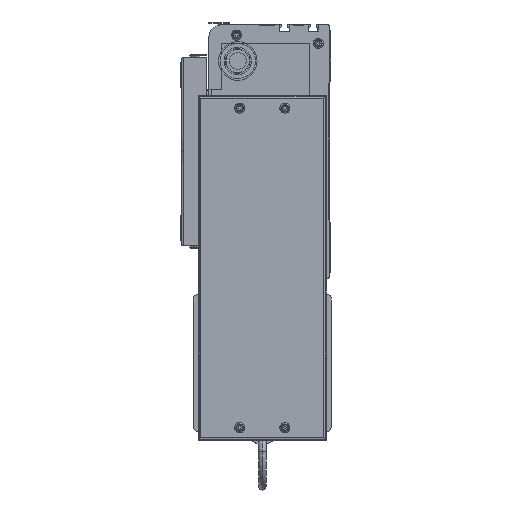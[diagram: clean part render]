
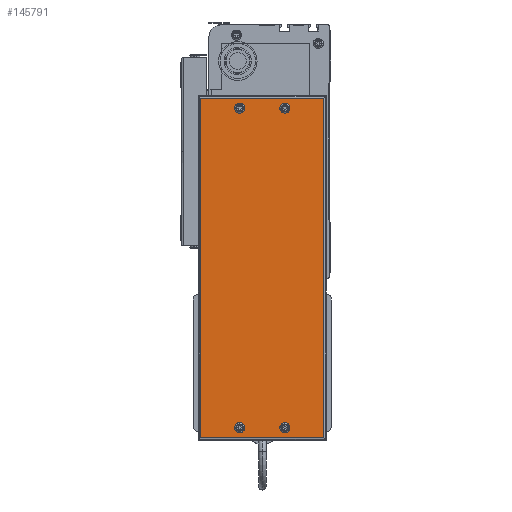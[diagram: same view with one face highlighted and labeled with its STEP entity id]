
A CAD part, left-side view. The second image highlights one B-rep face of the part: STEP entity #145791.
In plain terms, the highlighted planar face has unit normal (-1, 0, 0) as drawn and (1, 0, 0) by its records, which use the part's own axes.
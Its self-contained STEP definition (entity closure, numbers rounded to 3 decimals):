
#15871 = CARTESIAN_POINT ( 'NONE',  ( 50., 10., -71.5 ) ) ;
#15928 = CARTESIAN_POINT ( 'NONE',  ( 50., 10., -30.5 ) ) ;
#15962 = CARTESIAN_POINT ( 'NONE',  ( 50., 10., -66.5 ) ) ;
#16117 = CARTESIAN_POINT ( 'NONE',  ( 50., 264., -35.5 ) ) ;
#16491 = CIRCLE ( 'NONE', #16628, 2.5 ) ;
#16501 = CARTESIAN_POINT ( 'NONE',  ( 50., 10., -69. ) ) ;
#16626 = DIRECTION ( 'NONE',  ( 0., 0., -1. ) ) ;
#16627 = DIRECTION ( 'NONE',  ( 1., 0., 0. ) ) ;
#16628 = AXIS2_PLACEMENT_3D ( 'NONE', #16501, #16627, #16626 ) ;
#16989 = CARTESIAN_POINT ( 'NONE',  ( 50., 272., -2. ) ) ;
#17067 = CARTESIAN_POINT ( 'NONE',  ( 50., 264., -71.5 ) ) ;
#17468 = LINE ( 'NONE', #17510, #17586 ) ;
#17508 = DIRECTION ( 'NONE',  ( 0., 0., -1. ) ) ;
#17510 = CARTESIAN_POINT ( 'NONE',  ( 50., 2., 0. ) ) ;
#17586 = VECTOR ( 'NONE', #17508, 1000. ) ;
#17963 = CIRCLE ( 'NONE', #18073, 2.5 ) ;
#17970 = DIRECTION ( 'NONE',  ( 1., 0., 0. ) ) ;
#17990 = CARTESIAN_POINT ( 'NONE',  ( 50., 264., -33. ) ) ;
#18029 = DIRECTION ( 'NONE',  ( 0., 0., -1. ) ) ;
#18073 = AXIS2_PLACEMENT_3D ( 'NONE', #17990, #17970, #18029 ) ;
#18486 = CARTESIAN_POINT ( 'NONE',  ( 50., 264., -66.5 ) ) ;
#19098 = CARTESIAN_POINT ( 'NONE',  ( 50., 274., -2. ) ) ;
#19099 = LINE ( 'NONE', #19098, #19274 ) ;
#19273 = DIRECTION ( 'NONE',  ( 0., -1., 0. ) ) ;
#19274 = VECTOR ( 'NONE', #19273, 1000. ) ;
#19341 = DIRECTION ( 'NONE',  ( 0., 1., 0. ) ) ;
#19342 = VECTOR ( 'NONE', #19341, 1000. ) ;
#19343 = CARTESIAN_POINT ( 'NONE',  ( 50., 274., -100. ) ) ;
#19344 = LINE ( 'NONE', #19343, #19342 ) ;
#19348 = CARTESIAN_POINT ( 'NONE',  ( 50., 2., -2. ) ) ;
#19546 = CARTESIAN_POINT ( 'NONE',  ( 50., 264., -30.5 ) ) ;
#19793 = CARTESIAN_POINT ( 'NONE',  ( 50., 272., -100. ) ) ;
#20213 = AXIS2_PLACEMENT_3D ( 'NONE', #20249, #20248, #20247 ) ;
#20237 = FACE_BOUND ( 'NONE', #145485, .T. ) ;
#20238 = PLANE ( 'NONE',  #20329 ) ;
#20240 = FACE_BOUND ( 'NONE', #145487, .T. ) ;
#20244 = FACE_OUTER_BOUND ( 'NONE', #145594, .T. ) ;
#20247 = DIRECTION ( 'NONE',  ( 0., 0., -1. ) ) ;
#20248 = DIRECTION ( 'NONE',  ( 1., 0., 0. ) ) ;
#20249 = CARTESIAN_POINT ( 'NONE',  ( 50., 264., -33. ) ) ;
#20250 = FACE_BOUND ( 'NONE', #145533, .T. ) ;
#20252 = CIRCLE ( 'NONE', #20213, 2.5 ) ;
#20319 = DIRECTION ( 'NONE',  ( 0., 0., 1. ) ) ;
#20320 = FACE_BOUND ( 'NONE', #145534, .T. ) ;
#20327 = DIRECTION ( 'NONE',  ( -1., 0., 0. ) ) ;
#20328 = CARTESIAN_POINT ( 'NONE',  ( 50., 274., 0. ) ) ;
#20329 = AXIS2_PLACEMENT_3D ( 'NONE', #20328, #20327, #20319 ) ;
#20866 = CARTESIAN_POINT ( 'NONE',  ( 50., 2., -100. ) ) ;
#21671 = DIRECTION ( 'NONE',  ( 0., 0., -1. ) ) ;
#21672 = DIRECTION ( 'NONE',  ( 1., 0., 0. ) ) ;
#21673 = CARTESIAN_POINT ( 'NONE',  ( 50., 10., -33. ) ) ;
#21674 = AXIS2_PLACEMENT_3D ( 'NONE', #21673, #21672, #21671 ) ;
#21676 = CIRCLE ( 'NONE', #21674, 2.5 ) ;
#26130 = DIRECTION ( 'NONE',  ( 0., 0., -1. ) ) ;
#26132 = DIRECTION ( 'NONE',  ( 1., 0., 0. ) ) ;
#26147 = CIRCLE ( 'NONE', #26159, 2.5 ) ;
#26159 = AXIS2_PLACEMENT_3D ( 'NONE', #26176, #26132, #26130 ) ;
#26176 = CARTESIAN_POINT ( 'NONE',  ( 50., 10., -69. ) ) ;
#26311 = AXIS2_PLACEMENT_3D ( 'NONE', #26426, #26425, #26424 ) ;
#26313 = CIRCLE ( 'NONE', #26311, 2.5 ) ;
#26408 = DIRECTION ( 'NONE',  ( 0., 0., 1. ) ) ;
#26409 = VECTOR ( 'NONE', #26408, 1000. ) ;
#26411 = CARTESIAN_POINT ( 'NONE',  ( 50., 272., 0. ) ) ;
#26420 = LINE ( 'NONE', #26411, #26409 ) ;
#26424 = DIRECTION ( 'NONE',  ( 0., 0., -1. ) ) ;
#26425 = DIRECTION ( 'NONE',  ( 1., 0., 0. ) ) ;
#26426 = CARTESIAN_POINT ( 'NONE',  ( 50., 264., -69. ) ) ;
#80836 = DIRECTION ( 'NONE',  ( 0., 0., -1. ) ) ;
#80838 = DIRECTION ( 'NONE',  ( 1., 0., 0. ) ) ;
#80840 = CARTESIAN_POINT ( 'NONE',  ( 50., 10., -33. ) ) ;
#80841 = AXIS2_PLACEMENT_3D ( 'NONE', #80840, #80838, #80836 ) ;
#80850 = CIRCLE ( 'NONE', #80841, 2.5 ) ;
#80906 = CIRCLE ( 'NONE', #81065, 2.5 ) ;
#81035 = DIRECTION ( 'NONE',  ( 0., 0., -1. ) ) ;
#81036 = DIRECTION ( 'NONE',  ( 1., 0., 0. ) ) ;
#81065 = AXIS2_PLACEMENT_3D ( 'NONE', #81072, #81036, #81035 ) ;
#81072 = CARTESIAN_POINT ( 'NONE',  ( 50., 264., -69. ) ) ;
#81493 = CARTESIAN_POINT ( 'NONE',  ( 50., 10., -35.5 ) ) ;
#144954 = EDGE_CURVE ( 'NONE', #145218, #145026, #80850, .T. ) ;
#144983 = EDGE_CURVE ( 'NONE', #145586, #145430, #80906, .T. ) ;
#145026 = VERTEX_POINT ( 'NONE', #81493 ) ;
#145202 = VERTEX_POINT ( 'NONE', #15871 ) ;
#145209 = VERTEX_POINT ( 'NONE', #15962 ) ;
#145218 = VERTEX_POINT ( 'NONE', #15928 ) ;
#145248 = VERTEX_POINT ( 'NONE', #16117 ) ;
#145282 = EDGE_CURVE ( 'NONE', #145209, #145202, #16491, .T. ) ;
#145424 = VERTEX_POINT ( 'NONE', #16989 ) ;
#145430 = VERTEX_POINT ( 'NONE', #17067 ) ;
#145454 = EDGE_CURVE ( 'NONE', #145643, #145888, #17468, .T. ) ;
#145485 = EDGE_LOOP ( 'NONE', ( #147699, #146181 ) ) ;
#145487 = EDGE_LOOP ( 'NONE', ( #147685, #147750 ) ) ;
#145489 = ORIENTED_EDGE ( 'NONE', *, *, #145780, .F. ) ;
#145524 = ORIENTED_EDGE ( 'NONE', *, *, #144983, .F. ) ;
#145533 = EDGE_LOOP ( 'NONE', ( #146333, #145489 ) ) ;
#145534 = EDGE_LOOP ( 'NONE', ( #146331, #145524 ) ) ;
#145536 = EDGE_CURVE ( 'NONE', #145248, #145676, #17963, .T. ) ;
#145586 = VERTEX_POINT ( 'NONE', #18486 ) ;
#145594 = EDGE_LOOP ( 'NONE', ( #145799, #145647, #145645, #145695 ) ) ;
#145635 = EDGE_CURVE ( 'NONE', #145424, #145643, #19099, .T. ) ;
#145643 = VERTEX_POINT ( 'NONE', #19348 ) ;
#145645 = ORIENTED_EDGE ( 'NONE', *, *, #145651, .T. ) ;
#145647 = ORIENTED_EDGE ( 'NONE', *, *, #145454, .T. ) ;
#145651 = EDGE_CURVE ( 'NONE', #145888, #145795, #19344, .T. ) ;
#145676 = VERTEX_POINT ( 'NONE', #19546 ) ;
#145695 = ORIENTED_EDGE ( 'NONE', *, *, #147583, .T. ) ;
#145780 = EDGE_CURVE ( 'NONE', #145676, #145248, #20252, .T. ) ;
#145791 = ADVANCED_FACE ( 'NONE', ( #20244, #20240, #20237, #20320, #20250 ), #20238, .F. ) ;
#145795 = VERTEX_POINT ( 'NONE', #19793 ) ;
#145799 = ORIENTED_EDGE ( 'NONE', *, *, #145635, .T. ) ;
#145888 = VERTEX_POINT ( 'NONE', #20866 ) ;
#146058 = EDGE_CURVE ( 'NONE', #145026, #145218, #21676, .T. ) ;
#146181 = ORIENTED_EDGE ( 'NONE', *, *, #144954, .F. ) ;
#146331 = ORIENTED_EDGE ( 'NONE', *, *, #147399, .F. ) ;
#146333 = ORIENTED_EDGE ( 'NONE', *, *, #145536, .F. ) ;
#146732 = EDGE_CURVE ( 'NONE', #145202, #145209, #26147, .T. ) ;
#147399 = EDGE_CURVE ( 'NONE', #145430, #145586, #26313, .T. ) ;
#147583 = EDGE_CURVE ( 'NONE', #145795, #145424, #26420, .T. ) ;
#147685 = ORIENTED_EDGE ( 'NONE', *, *, #146732, .F. ) ;
#147699 = ORIENTED_EDGE ( 'NONE', *, *, #146058, .F. ) ;
#147750 = ORIENTED_EDGE ( 'NONE', *, *, #145282, .F. ) ;
